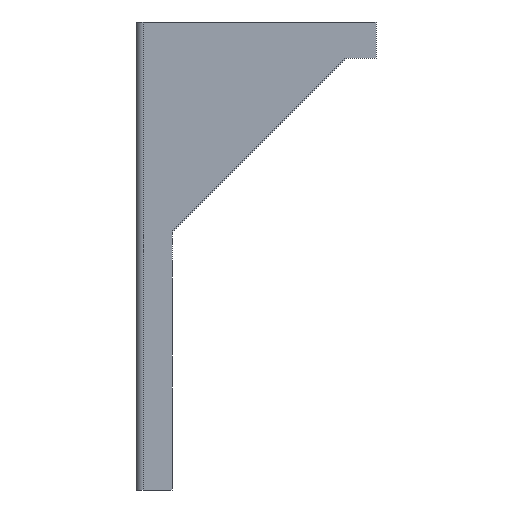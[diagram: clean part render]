
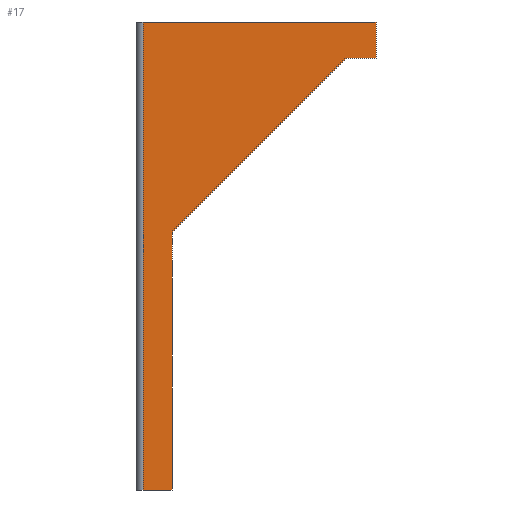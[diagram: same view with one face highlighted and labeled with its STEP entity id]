
A CAD part, left-side view. The second image highlights one B-rep face of the part: STEP entity #17.
In plain terms, the highlighted planar face has unit normal (-1, 0, 0).
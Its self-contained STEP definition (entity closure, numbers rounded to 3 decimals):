
#17 = ADVANCED_FACE('',(#18),#32,.F.);
#18 = FACE_BOUND('',#19,.F.);
#19 = EDGE_LOOP('',(#20,#55,#83,#111,#139,#167,#195));
#20 = ORIENTED_EDGE('',*,*,#21,.T.);
#21 = EDGE_CURVE('',#22,#24,#26,.T.);
#22 = VERTEX_POINT('',#23);
#23 = CARTESIAN_POINT('',(-27.,0.,-27.));
#24 = VERTEX_POINT('',#25);
#25 = CARTESIAN_POINT('',(-27.,4.8,-27.));
#26 = SURFACE_CURVE('',#27,(#31,#43),.PCURVE_S1.);
#27 = LINE('',#28,#29);
#28 = CARTESIAN_POINT('',(-27.,0.,-27.));
#29 = VECTOR('',#30,1.);
#30 = DIRECTION('',(-0.,1.,0.));
#31 = PCURVE('',#32,#37);
#32 = PLANE('',#33);
#33 = AXIS2_PLACEMENT_3D('',#34,#35,#36);
#34 = CARTESIAN_POINT('',(-27.,0.,-27.));
#35 = DIRECTION('',(1.,0.,-0.));
#36 = DIRECTION('',(0.,0.,1.));
#37 = DEFINITIONAL_REPRESENTATION('',(#38),#42);
#38 = LINE('',#39,#40);
#39 = CARTESIAN_POINT('',(0.,0.));
#40 = VECTOR('',#41,1.);
#41 = DIRECTION('',(0.,-1.));
#42 = ( GEOMETRIC_REPRESENTATION_CONTEXT(2) 
PARAMETRIC_REPRESENTATION_CONTEXT() REPRESENTATION_CONTEXT('2D SPACE',''
  ) );
#43 = PCURVE('',#44,#49);
#44 = PLANE('',#45);
#45 = AXIS2_PLACEMENT_3D('',#46,#47,#48);
#46 = CARTESIAN_POINT('',(-27.,0.,-27.));
#47 = DIRECTION('',(0.,0.,1.));
#48 = DIRECTION('',(1.,0.,-0.));
#49 = DEFINITIONAL_REPRESENTATION('',(#50),#54);
#50 = LINE('',#51,#52);
#51 = CARTESIAN_POINT('',(0.,0.));
#52 = VECTOR('',#53,1.);
#53 = DIRECTION('',(0.,1.));
#54 = ( GEOMETRIC_REPRESENTATION_CONTEXT(2) 
PARAMETRIC_REPRESENTATION_CONTEXT() REPRESENTATION_CONTEXT('2D SPACE',''
  ) );
#55 = ORIENTED_EDGE('',*,*,#56,.F.);
#56 = EDGE_CURVE('',#57,#24,#59,.T.);
#57 = VERTEX_POINT('',#58);
#58 = CARTESIAN_POINT('',(-27.,4.8,51.));
#59 = SURFACE_CURVE('',#60,(#64,#71),.PCURVE_S1.);
#60 = LINE('',#61,#62);
#61 = CARTESIAN_POINT('',(-27.,4.8,51.));
#62 = VECTOR('',#63,1.);
#63 = DIRECTION('',(0.,0.,-1.));
#64 = PCURVE('',#32,#65);
#65 = DEFINITIONAL_REPRESENTATION('',(#66),#70);
#66 = LINE('',#67,#68);
#67 = CARTESIAN_POINT('',(78.,-4.8));
#68 = VECTOR('',#69,1.);
#69 = DIRECTION('',(-1.,0.));
#70 = ( GEOMETRIC_REPRESENTATION_CONTEXT(2) 
PARAMETRIC_REPRESENTATION_CONTEXT() REPRESENTATION_CONTEXT('2D SPACE',''
  ) );
#71 = PCURVE('',#72,#77);
#72 = CYLINDRICAL_SURFACE('',#73,1.2);
#73 = AXIS2_PLACEMENT_3D('',#74,#75,#76);
#74 = CARTESIAN_POINT('',(-25.8,4.8,51.));
#75 = DIRECTION('',(0.,0.,-1.));
#76 = DIRECTION('',(-1.,-0.,-0.));
#77 = DEFINITIONAL_REPRESENTATION('',(#78),#82);
#78 = LINE('',#79,#80);
#79 = CARTESIAN_POINT('',(0.,0.));
#80 = VECTOR('',#81,1.);
#81 = DIRECTION('',(0.,1.));
#82 = ( GEOMETRIC_REPRESENTATION_CONTEXT(2) 
PARAMETRIC_REPRESENTATION_CONTEXT() REPRESENTATION_CONTEXT('2D SPACE',''
  ) );
#83 = ORIENTED_EDGE('',*,*,#84,.F.);
#84 = EDGE_CURVE('',#85,#57,#87,.T.);
#85 = VERTEX_POINT('',#86);
#86 = CARTESIAN_POINT('',(-27.,-34.,51.));
#87 = SURFACE_CURVE('',#88,(#92,#99),.PCURVE_S1.);
#88 = LINE('',#89,#90);
#89 = CARTESIAN_POINT('',(-27.,-34.,51.));
#90 = VECTOR('',#91,1.);
#91 = DIRECTION('',(0.,1.,0.));
#92 = PCURVE('',#32,#93);
#93 = DEFINITIONAL_REPRESENTATION('',(#94),#98);
#94 = LINE('',#95,#96);
#95 = CARTESIAN_POINT('',(78.,34.));
#96 = VECTOR('',#97,1.);
#97 = DIRECTION('',(0.,-1.));
#98 = ( GEOMETRIC_REPRESENTATION_CONTEXT(2) 
PARAMETRIC_REPRESENTATION_CONTEXT() REPRESENTATION_CONTEXT('2D SPACE',''
  ) );
#99 = PCURVE('',#100,#105);
#100 = PLANE('',#101);
#101 = AXIS2_PLACEMENT_3D('',#102,#103,#104);
#102 = CARTESIAN_POINT('',(-27.,0.,51.));
#103 = DIRECTION('',(0.,0.,1.));
#104 = DIRECTION('',(1.,0.,-0.));
#105 = DEFINITIONAL_REPRESENTATION('',(#106),#110);
#106 = LINE('',#107,#108);
#107 = CARTESIAN_POINT('',(0.,-34.));
#108 = VECTOR('',#109,1.);
#109 = DIRECTION('',(0.,1.));
#110 = ( GEOMETRIC_REPRESENTATION_CONTEXT(2) 
PARAMETRIC_REPRESENTATION_CONTEXT() REPRESENTATION_CONTEXT('2D SPACE',''
  ) );
#111 = ORIENTED_EDGE('',*,*,#112,.F.);
#112 = EDGE_CURVE('',#113,#85,#115,.T.);
#113 = VERTEX_POINT('',#114);
#114 = CARTESIAN_POINT('',(-27.,-34.,45.));
#115 = SURFACE_CURVE('',#116,(#120,#127),.PCURVE_S1.);
#116 = LINE('',#117,#118);
#117 = CARTESIAN_POINT('',(-27.,-34.,45.));
#118 = VECTOR('',#119,1.);
#119 = DIRECTION('',(0.,0.,1.));
#120 = PCURVE('',#32,#121);
#121 = DEFINITIONAL_REPRESENTATION('',(#122),#126);
#122 = LINE('',#123,#124);
#123 = CARTESIAN_POINT('',(72.,34.));
#124 = VECTOR('',#125,1.);
#125 = DIRECTION('',(1.,0.));
#126 = ( GEOMETRIC_REPRESENTATION_CONTEXT(2) 
PARAMETRIC_REPRESENTATION_CONTEXT() REPRESENTATION_CONTEXT('2D SPACE',''
  ) );
#127 = PCURVE('',#128,#133);
#128 = PLANE('',#129);
#129 = AXIS2_PLACEMENT_3D('',#130,#131,#132);
#130 = CARTESIAN_POINT('',(-27.,-34.,45.));
#131 = DIRECTION('',(-0.,1.,0.));
#132 = DIRECTION('',(0.,0.,1.));
#133 = DEFINITIONAL_REPRESENTATION('',(#134),#138);
#134 = LINE('',#135,#136);
#135 = CARTESIAN_POINT('',(0.,0.));
#136 = VECTOR('',#137,1.);
#137 = DIRECTION('',(1.,0.));
#138 = ( GEOMETRIC_REPRESENTATION_CONTEXT(2) 
PARAMETRIC_REPRESENTATION_CONTEXT() REPRESENTATION_CONTEXT('2D SPACE',''
  ) );
#139 = ORIENTED_EDGE('',*,*,#140,.T.);
#140 = EDGE_CURVE('',#113,#141,#143,.T.);
#141 = VERTEX_POINT('',#142);
#142 = CARTESIAN_POINT('',(-27.,-29.,45.));
#143 = SURFACE_CURVE('',#144,(#148,#155),.PCURVE_S1.);
#144 = LINE('',#145,#146);
#145 = CARTESIAN_POINT('',(-27.,-34.,45.));
#146 = VECTOR('',#147,1.);
#147 = DIRECTION('',(-0.,1.,0.));
#148 = PCURVE('',#32,#149);
#149 = DEFINITIONAL_REPRESENTATION('',(#150),#154);
#150 = LINE('',#151,#152);
#151 = CARTESIAN_POINT('',(72.,34.));
#152 = VECTOR('',#153,1.);
#153 = DIRECTION('',(0.,-1.));
#154 = ( GEOMETRIC_REPRESENTATION_CONTEXT(2) 
PARAMETRIC_REPRESENTATION_CONTEXT() REPRESENTATION_CONTEXT('2D SPACE',''
  ) );
#155 = PCURVE('',#156,#161);
#156 = PLANE('',#157);
#157 = AXIS2_PLACEMENT_3D('',#158,#159,#160);
#158 = CARTESIAN_POINT('',(-27.,-34.,45.));
#159 = DIRECTION('',(0.,0.,1.));
#160 = DIRECTION('',(1.,0.,-0.));
#161 = DEFINITIONAL_REPRESENTATION('',(#162),#166);
#162 = LINE('',#163,#164);
#163 = CARTESIAN_POINT('',(0.,0.));
#164 = VECTOR('',#165,1.);
#165 = DIRECTION('',(0.,1.));
#166 = ( GEOMETRIC_REPRESENTATION_CONTEXT(2) 
PARAMETRIC_REPRESENTATION_CONTEXT() REPRESENTATION_CONTEXT('2D SPACE',''
  ) );
#167 = ORIENTED_EDGE('',*,*,#168,.F.);
#168 = EDGE_CURVE('',#169,#141,#171,.T.);
#169 = VERTEX_POINT('',#170);
#170 = CARTESIAN_POINT('',(-27.,0.,16.));
#171 = SURFACE_CURVE('',#172,(#176,#183),.PCURVE_S1.);
#172 = LINE('',#173,#174);
#173 = CARTESIAN_POINT('',(-27.,0.,16.));
#174 = VECTOR('',#175,1.);
#175 = DIRECTION('',(0.,-0.707,0.707));
#176 = PCURVE('',#32,#177);
#177 = DEFINITIONAL_REPRESENTATION('',(#178),#182);
#178 = LINE('',#179,#180);
#179 = CARTESIAN_POINT('',(43.,0.));
#180 = VECTOR('',#181,1.);
#181 = DIRECTION('',(0.707,0.707));
#182 = ( GEOMETRIC_REPRESENTATION_CONTEXT(2) 
PARAMETRIC_REPRESENTATION_CONTEXT() REPRESENTATION_CONTEXT('2D SPACE',''
  ) );
#183 = PCURVE('',#184,#189);
#184 = PLANE('',#185);
#185 = AXIS2_PLACEMENT_3D('',#186,#187,#188);
#186 = CARTESIAN_POINT('',(-27.,0.,16.));
#187 = DIRECTION('',(-0.,-0.707,-0.707));
#188 = DIRECTION('',(0.,-0.707,0.707));
#189 = DEFINITIONAL_REPRESENTATION('',(#190),#194);
#190 = LINE('',#191,#192);
#191 = CARTESIAN_POINT('',(0.,0.));
#192 = VECTOR('',#193,1.);
#193 = DIRECTION('',(1.,0.));
#194 = ( GEOMETRIC_REPRESENTATION_CONTEXT(2) 
PARAMETRIC_REPRESENTATION_CONTEXT() REPRESENTATION_CONTEXT('2D SPACE',''
  ) );
#195 = ORIENTED_EDGE('',*,*,#196,.F.);
#196 = EDGE_CURVE('',#22,#169,#197,.T.);
#197 = SURFACE_CURVE('',#198,(#202,#209),.PCURVE_S1.);
#198 = LINE('',#199,#200);
#199 = CARTESIAN_POINT('',(-27.,0.,-27.));
#200 = VECTOR('',#201,1.);
#201 = DIRECTION('',(0.,0.,1.));
#202 = PCURVE('',#32,#203);
#203 = DEFINITIONAL_REPRESENTATION('',(#204),#208);
#204 = LINE('',#205,#206);
#205 = CARTESIAN_POINT('',(0.,0.));
#206 = VECTOR('',#207,1.);
#207 = DIRECTION('',(1.,0.));
#208 = ( GEOMETRIC_REPRESENTATION_CONTEXT(2) 
PARAMETRIC_REPRESENTATION_CONTEXT() REPRESENTATION_CONTEXT('2D SPACE',''
  ) );
#209 = PCURVE('',#210,#215);
#210 = PLANE('',#211);
#211 = AXIS2_PLACEMENT_3D('',#212,#213,#214);
#212 = CARTESIAN_POINT('',(-27.,0.,-27.));
#213 = DIRECTION('',(-0.,1.,0.));
#214 = DIRECTION('',(0.,0.,1.));
#215 = DEFINITIONAL_REPRESENTATION('',(#216),#220);
#216 = LINE('',#217,#218);
#217 = CARTESIAN_POINT('',(0.,0.));
#218 = VECTOR('',#219,1.);
#219 = DIRECTION('',(1.,0.));
#220 = ( GEOMETRIC_REPRESENTATION_CONTEXT(2) 
PARAMETRIC_REPRESENTATION_CONTEXT() REPRESENTATION_CONTEXT('2D SPACE',''
  ) );
